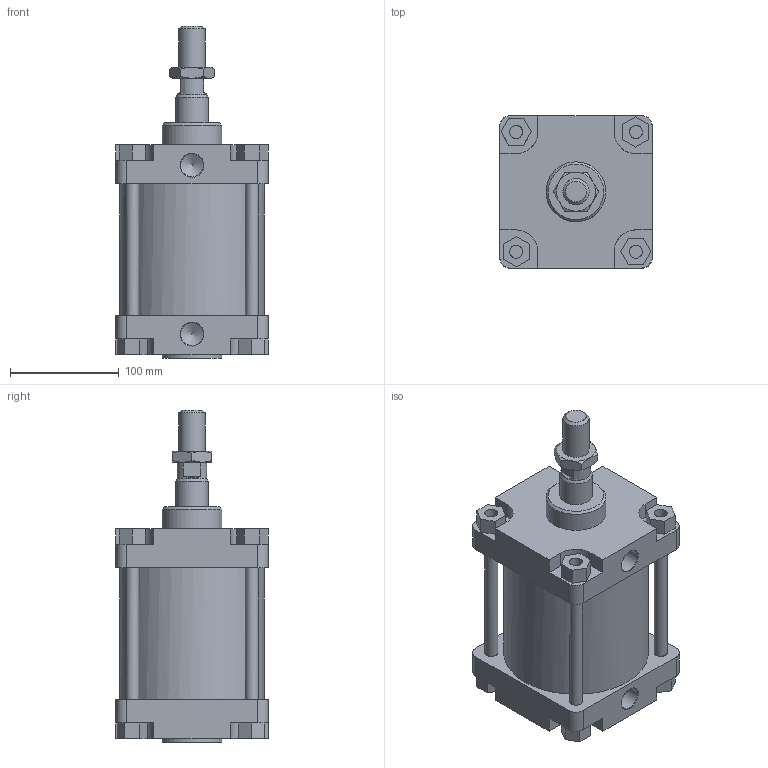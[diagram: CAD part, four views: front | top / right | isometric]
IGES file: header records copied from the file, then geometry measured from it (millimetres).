
Global section: file name: 1304_125_0025_01A; native system: Autodesk Inventor 2014; preprocessor: unknown; author: A. Manieri; date: 20161124.142221; units: millimetre
Bounding box: 140 x 140 x 305 mm (x, y, z)
Volume: 2844925 mm3; surface area: 345987.6 mm2
Topology: 9 solids, 9 shells, 175 faces, 440 edges, 295 vertices
Faces by surface type: bspline 175
